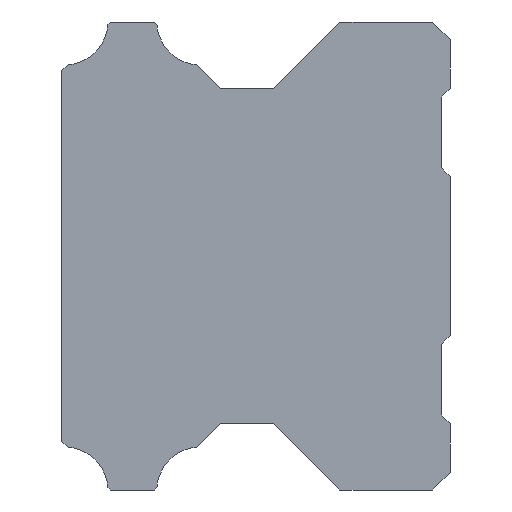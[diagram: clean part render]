
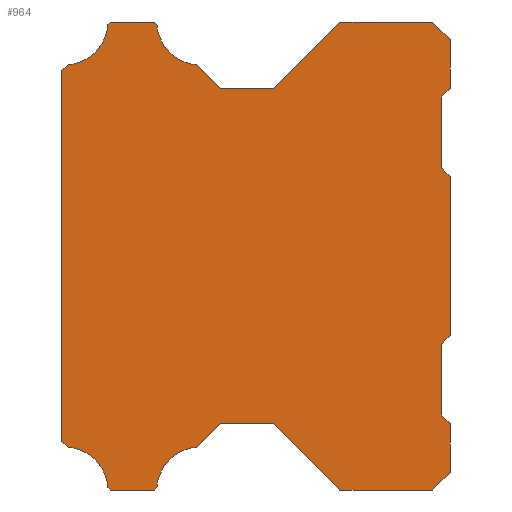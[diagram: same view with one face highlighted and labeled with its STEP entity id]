
A CAD part, left-side view. The second image highlights one B-rep face of the part: STEP entity #964.
In plain terms, the highlighted planar face has unit normal (-1, 0, 0).
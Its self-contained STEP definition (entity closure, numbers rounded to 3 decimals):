
#45=CIRCLE('',#1023,4.95);
#47=CIRCLE('',#1029,4.95);
#56=CIRCLE('',#1042,4.95);
#58=CIRCLE('',#1048,4.95);
#248=ORIENTED_EDGE('',*,*,#322,.F.);
#249=ORIENTED_EDGE('',*,*,#430,.F.);
#250=ORIENTED_EDGE('',*,*,#427,.F.);
#251=ORIENTED_EDGE('',*,*,#424,.F.);
#252=ORIENTED_EDGE('',*,*,#421,.T.);
#253=ORIENTED_EDGE('',*,*,#418,.F.);
#254=ORIENTED_EDGE('',*,*,#415,.F.);
#255=ORIENTED_EDGE('',*,*,#412,.F.);
#256=ORIENTED_EDGE('',*,*,#409,.T.);
#257=ORIENTED_EDGE('',*,*,#406,.F.);
#258=ORIENTED_EDGE('',*,*,#403,.F.);
#259=ORIENTED_EDGE('',*,*,#393,.F.);
#260=ORIENTED_EDGE('',*,*,#390,.T.);
#261=ORIENTED_EDGE('',*,*,#387,.F.);
#262=ORIENTED_EDGE('',*,*,#384,.F.);
#263=ORIENTED_EDGE('',*,*,#381,.F.);
#264=ORIENTED_EDGE('',*,*,#378,.T.);
#265=ORIENTED_EDGE('',*,*,#375,.F.);
#266=ORIENTED_EDGE('',*,*,#372,.F.);
#267=ORIENTED_EDGE('',*,*,#369,.F.);
#268=ORIENTED_EDGE('',*,*,#366,.F.);
#269=ORIENTED_EDGE('',*,*,#363,.F.);
#270=ORIENTED_EDGE('',*,*,#360,.F.);
#271=ORIENTED_EDGE('',*,*,#357,.F.);
#272=ORIENTED_EDGE('',*,*,#354,.F.);
#273=ORIENTED_EDGE('',*,*,#351,.F.);
#274=ORIENTED_EDGE('',*,*,#348,.F.);
#275=ORIENTED_EDGE('',*,*,#338,.F.);
#276=ORIENTED_EDGE('',*,*,#335,.F.);
#277=ORIENTED_EDGE('',*,*,#332,.F.);
#278=ORIENTED_EDGE('',*,*,#329,.F.);
#279=ORIENTED_EDGE('',*,*,#326,.F.);
#322=EDGE_CURVE('',#446,#447,#538,.T.);
#326=EDGE_CURVE('',#447,#450,#542,.T.);
#329=EDGE_CURVE('',#450,#452,#545,.T.);
#332=EDGE_CURVE('',#452,#454,#548,.T.);
#335=EDGE_CURVE('',#454,#456,#551,.T.);
#338=EDGE_CURVE('',#456,#458,#554,.T.);
#348=EDGE_CURVE('',#458,#467,#557,.T.);
#351=EDGE_CURVE('',#467,#469,#560,.T.);
#354=EDGE_CURVE('',#469,#471,#563,.T.);
#357=EDGE_CURVE('',#471,#473,#566,.T.);
#360=EDGE_CURVE('',#473,#475,#569,.T.);
#363=EDGE_CURVE('',#475,#477,#572,.T.);
#366=EDGE_CURVE('',#477,#479,#575,.T.);
#369=EDGE_CURVE('',#479,#481,#578,.T.);
#372=EDGE_CURVE('',#481,#483,#581,.T.);
#375=EDGE_CURVE('',#483,#485,#584,.T.);
#378=EDGE_CURVE('',#487,#485,#45,.T.);
#381=EDGE_CURVE('',#487,#489,#588,.T.);
#384=EDGE_CURVE('',#489,#491,#591,.T.);
#387=EDGE_CURVE('',#491,#493,#594,.T.);
#390=EDGE_CURVE('',#495,#493,#47,.T.);
#393=EDGE_CURVE('',#495,#497,#598,.T.);
#403=EDGE_CURVE('',#497,#506,#601,.T.);
#406=EDGE_CURVE('',#506,#508,#604,.T.);
#409=EDGE_CURVE('',#510,#508,#56,.T.);
#412=EDGE_CURVE('',#510,#512,#608,.T.);
#415=EDGE_CURVE('',#512,#514,#611,.T.);
#418=EDGE_CURVE('',#514,#516,#614,.T.);
#421=EDGE_CURVE('',#518,#516,#58,.T.);
#424=EDGE_CURVE('',#518,#520,#618,.T.);
#427=EDGE_CURVE('',#520,#522,#621,.T.);
#430=EDGE_CURVE('',#522,#446,#624,.T.);
#446=VERTEX_POINT('',#1365);
#447=VERTEX_POINT('',#1366);
#450=VERTEX_POINT('',#1374);
#452=VERTEX_POINT('',#1380);
#454=VERTEX_POINT('',#1386);
#456=VERTEX_POINT('',#1392);
#458=VERTEX_POINT('',#1398);
#467=VERTEX_POINT('',#1418);
#469=VERTEX_POINT('',#1424);
#471=VERTEX_POINT('',#1430);
#473=VERTEX_POINT('',#1436);
#475=VERTEX_POINT('',#1442);
#477=VERTEX_POINT('',#1448);
#479=VERTEX_POINT('',#1454);
#481=VERTEX_POINT('',#1460);
#483=VERTEX_POINT('',#1466);
#485=VERTEX_POINT('',#1472);
#487=VERTEX_POINT('',#1478);
#489=VERTEX_POINT('',#1484);
#491=VERTEX_POINT('',#1490);
#493=VERTEX_POINT('',#1496);
#495=VERTEX_POINT('',#1502);
#497=VERTEX_POINT('',#1508);
#506=VERTEX_POINT('',#1528);
#508=VERTEX_POINT('',#1534);
#510=VERTEX_POINT('',#1540);
#512=VERTEX_POINT('',#1546);
#514=VERTEX_POINT('',#1552);
#516=VERTEX_POINT('',#1558);
#518=VERTEX_POINT('',#1564);
#520=VERTEX_POINT('',#1570);
#522=VERTEX_POINT('',#1576);
#538=LINE('',#1364,#626);
#542=LINE('',#1373,#630);
#545=LINE('',#1379,#633);
#548=LINE('',#1385,#636);
#551=LINE('',#1391,#639);
#554=LINE('',#1397,#642);
#557=LINE('',#1417,#645);
#560=LINE('',#1423,#648);
#563=LINE('',#1429,#651);
#566=LINE('',#1435,#654);
#569=LINE('',#1441,#657);
#572=LINE('',#1447,#660);
#575=LINE('',#1453,#663);
#578=LINE('',#1459,#666);
#581=LINE('',#1465,#669);
#584=LINE('',#1471,#672);
#588=LINE('',#1483,#676);
#591=LINE('',#1489,#679);
#594=LINE('',#1495,#682);
#598=LINE('',#1507,#686);
#601=LINE('',#1527,#689);
#604=LINE('',#1533,#692);
#608=LINE('',#1545,#696);
#611=LINE('',#1551,#699);
#614=LINE('',#1557,#702);
#618=LINE('',#1569,#706);
#621=LINE('',#1575,#709);
#624=LINE('',#1581,#712);
#626=VECTOR('',#1094,1000.);
#630=VECTOR('',#1100,1000.);
#633=VECTOR('',#1105,1000.);
#636=VECTOR('',#1110,1000.);
#639=VECTOR('',#1115,1000.);
#642=VECTOR('',#1120,1000.);
#645=VECTOR('',#1139,1000.);
#648=VECTOR('',#1144,1000.);
#651=VECTOR('',#1149,1000.);
#654=VECTOR('',#1154,1000.);
#657=VECTOR('',#1159,1000.);
#660=VECTOR('',#1164,1000.);
#663=VECTOR('',#1169,1000.);
#666=VECTOR('',#1174,1000.);
#669=VECTOR('',#1179,1000.);
#672=VECTOR('',#1184,1000.);
#676=VECTOR('',#1196,1000.);
#679=VECTOR('',#1201,1000.);
#682=VECTOR('',#1206,1000.);
#686=VECTOR('',#1218,1000.);
#689=VECTOR('',#1237,1000.);
#692=VECTOR('',#1242,1000.);
#696=VECTOR('',#1254,1000.);
#699=VECTOR('',#1259,1000.);
#702=VECTOR('',#1264,1000.);
#706=VECTOR('',#1276,1000.);
#709=VECTOR('',#1281,1000.);
#712=VECTOR('',#1286,1000.);
#761=EDGE_LOOP('',(#248,#249,#250,#251,#252,#253,#254,#255,#256,#257,#258,
#259,#260,#261,#262,#263,#264,#265,#266,#267,#268,#269,#270,#271,#272,#273,
#274,#275,#276,#277,#278,#279));
#851=FACE_BOUND('',#761,.T.);
#923=PLANE('',#1054);
#964=ADVANCED_FACE('',(#851),#923,.F.);
#1023=AXIS2_PLACEMENT_3D('',#1477,#1189,#1190);
#1029=AXIS2_PLACEMENT_3D('',#1501,#1211,#1212);
#1042=AXIS2_PLACEMENT_3D('',#1539,#1247,#1248);
#1048=AXIS2_PLACEMENT_3D('',#1563,#1269,#1270);
#1054=AXIS2_PLACEMENT_3D('',#1584,#1290,#1291);
#1094=DIRECTION('',(0.,-1.,0.));
#1100=DIRECTION('',(0.,-0.707,-0.707));
#1105=DIRECTION('',(0.,0.,-1.));
#1110=DIRECTION('',(0.,0.707,-0.707));
#1115=DIRECTION('',(0.,0.,-1.));
#1120=DIRECTION('',(0.,-0.707,-0.707));
#1139=DIRECTION('',(0.,0.,-1.));
#1144=DIRECTION('',(0.,0.707,-0.707));
#1149=DIRECTION('',(0.,0.,-1.));
#1154=DIRECTION('',(0.,-0.707,-0.707));
#1159=DIRECTION('',(0.,0.,-1.));
#1164=DIRECTION('',(0.,0.707,-0.707));
#1169=DIRECTION('',(0.,1.,0.));
#1174=DIRECTION('',(0.,0.707,0.707));
#1179=DIRECTION('',(0.,1.,0.));
#1184=DIRECTION('',(0.,0.707,-0.707));
#1189=DIRECTION('',(1.,0.,0.));
#1190=DIRECTION('',(0.,0.,-1.));
#1196=DIRECTION('',(0.,0.707,-0.707));
#1201=DIRECTION('',(0.,1.,0.));
#1206=DIRECTION('',(0.,0.707,0.707));
#1211=DIRECTION('',(1.,0.,0.));
#1212=DIRECTION('',(0.,0.,-1.));
#1218=DIRECTION('',(0.,0.707,0.707));
#1237=DIRECTION('',(0.,0.,1.));
#1242=DIRECTION('',(0.,-0.707,0.707));
#1247=DIRECTION('',(1.,0.,0.));
#1248=DIRECTION('',(0.,0.,-1.));
#1254=DIRECTION('',(0.,-0.707,0.707));
#1259=DIRECTION('',(0.,-1.,0.));
#1264=DIRECTION('',(0.,-0.707,-0.707));
#1269=DIRECTION('',(1.,0.,0.));
#1270=DIRECTION('',(0.,0.,-1.));
#1276=DIRECTION('',(0.,-0.707,-0.707));
#1281=DIRECTION('',(0.,-1.,0.));
#1286=DIRECTION('',(0.,-0.707,0.707));
#1290=DIRECTION('',(1.,0.,0.));
#1291=DIRECTION('',(0.,0.,-1.));
#1364=CARTESIAN_POINT('',(-30.,12.498,26.5));
#1365=CARTESIAN_POINT('',(-30.,12.498,26.5));
#1366=CARTESIAN_POINT('',(-30.,2.,26.5));
#1373=CARTESIAN_POINT('',(-30.,2.,26.5));
#1374=CARTESIAN_POINT('',(-30.,0.,24.5));
#1379=CARTESIAN_POINT('',(-30.,0.,24.5));
#1380=CARTESIAN_POINT('',(-30.,0.,19.));
#1385=CARTESIAN_POINT('',(-30.,0.,19.));
#1386=CARTESIAN_POINT('',(-30.,1.,18.));
#1391=CARTESIAN_POINT('',(-30.,1.,18.));
#1392=CARTESIAN_POINT('',(-30.,1.,10.));
#1397=CARTESIAN_POINT('',(-30.,1.,10.));
#1398=CARTESIAN_POINT('',(-30.,0.,9.));
#1417=CARTESIAN_POINT('',(-30.,0.,9.));
#1418=CARTESIAN_POINT('',(-30.,0.,-9.));
#1423=CARTESIAN_POINT('',(-30.,0.,-9.));
#1424=CARTESIAN_POINT('',(-30.,1.,-10.));
#1429=CARTESIAN_POINT('',(-30.,1.,-10.));
#1430=CARTESIAN_POINT('',(-30.,1.,-18.));
#1435=CARTESIAN_POINT('',(-30.,1.,-18.));
#1436=CARTESIAN_POINT('',(-30.,0.,-19.));
#1441=CARTESIAN_POINT('',(-30.,0.,-19.));
#1442=CARTESIAN_POINT('',(-30.,0.,-24.5));
#1447=CARTESIAN_POINT('',(-30.,0.,-24.5));
#1448=CARTESIAN_POINT('',(-30.,2.,-26.5));
#1453=CARTESIAN_POINT('',(-30.,2.,-26.5));
#1454=CARTESIAN_POINT('',(-30.,12.498,-26.5));
#1459=CARTESIAN_POINT('',(-30.,12.498,-26.5));
#1460=CARTESIAN_POINT('',(-30.,19.998,-19.));
#1465=CARTESIAN_POINT('',(-30.,19.998,-19.));
#1466=CARTESIAN_POINT('',(-30.,26.001,-19.));
#1471=CARTESIAN_POINT('',(-30.,26.001,-19.));
#1472=CARTESIAN_POINT('',(-30.,28.63,-21.629));
#1477=CARTESIAN_POINT('',(-30.,28.287,-26.567));
#1478=CARTESIAN_POINT('',(-30.,33.225,-26.224));
#1483=CARTESIAN_POINT('',(-30.,33.225,-26.224));
#1484=CARTESIAN_POINT('',(-30.,33.501,-26.5));
#1489=CARTESIAN_POINT('',(-30.,33.501,-26.5));
#1490=CARTESIAN_POINT('',(-30.,38.498,-26.5));
#1495=CARTESIAN_POINT('',(-30.,38.498,-26.5));
#1496=CARTESIAN_POINT('',(-30.,38.774,-26.224));
#1501=CARTESIAN_POINT('',(-30.,43.712,-26.567));
#1502=CARTESIAN_POINT('',(-30.,43.369,-21.629));
#1507=CARTESIAN_POINT('',(-30.,43.369,-21.629));
#1508=CARTESIAN_POINT('',(-30.,44.,-20.998));
#1527=CARTESIAN_POINT('',(-30.,44.,-20.998));
#1528=CARTESIAN_POINT('',(-30.,44.,20.998));
#1533=CARTESIAN_POINT('',(-30.,44.,20.998));
#1534=CARTESIAN_POINT('',(-30.,43.369,21.629));
#1539=CARTESIAN_POINT('',(-30.,43.712,26.567));
#1540=CARTESIAN_POINT('',(-30.,38.774,26.224));
#1545=CARTESIAN_POINT('',(-30.,38.774,26.224));
#1546=CARTESIAN_POINT('',(-30.,38.498,26.5));
#1551=CARTESIAN_POINT('',(-30.,38.498,26.5));
#1552=CARTESIAN_POINT('',(-30.,33.501,26.5));
#1557=CARTESIAN_POINT('',(-30.,33.501,26.5));
#1558=CARTESIAN_POINT('',(-30.,33.225,26.224));
#1563=CARTESIAN_POINT('',(-30.,28.287,26.567));
#1564=CARTESIAN_POINT('',(-30.,28.63,21.629));
#1569=CARTESIAN_POINT('',(-30.,28.63,21.629));
#1570=CARTESIAN_POINT('',(-30.,26.001,19.));
#1575=CARTESIAN_POINT('',(-30.,26.001,19.));
#1576=CARTESIAN_POINT('',(-30.,19.998,19.));
#1581=CARTESIAN_POINT('',(-30.,19.998,19.));
#1584=CARTESIAN_POINT('',(-30.,28.287,-26.567));
